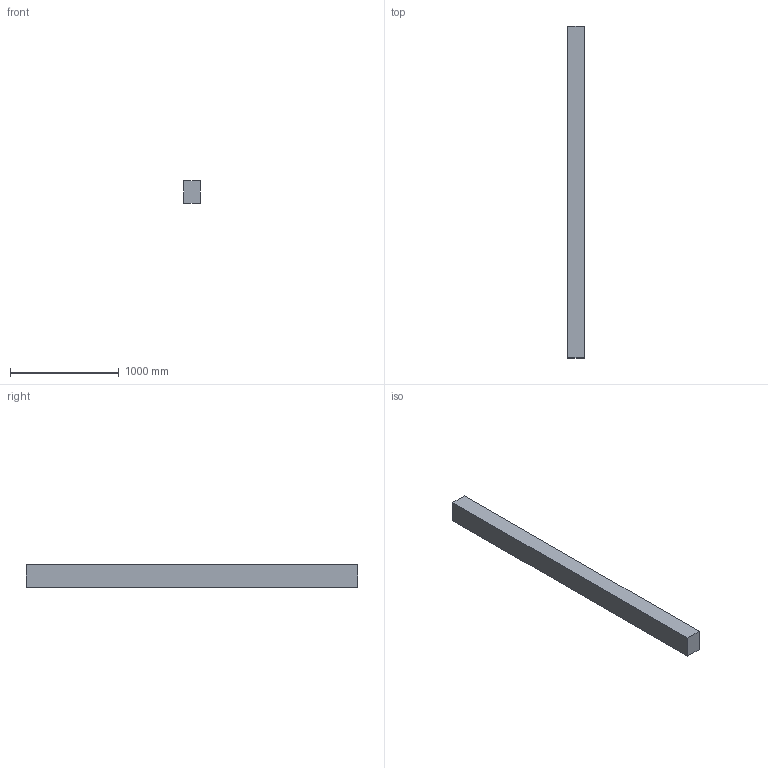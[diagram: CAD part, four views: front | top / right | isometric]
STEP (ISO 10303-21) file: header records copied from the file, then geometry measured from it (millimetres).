
FILE_DESCRIPTION(/* description */ (''),/* implementation_level */ '2;1');
FILE_NAME(/* name */ '6x8x120',/* time_stamp */ '2024-09-20T11:47:29-05:00',/* author */ (''),/* organization */ (''),/* preprocessor_version */ 'ST-DEVELOPER v19.2',/* originating_system */ 'Rhino 8.5',/* authorisation */ '');
FILE_SCHEMA (('CONFIG_CONTROL_DESIGN'));
Length unit declared in the file: inch
Products named in the file (1): Document
Bounding box: 152.4 x 3048 x 203.2 mm (x, y, z)
Volume: 94389488.6 mm3; surface area: 2229673 mm2
Topology: 1 solids, 1 shells, 6 faces, 12 edges, 8 vertices
Faces by surface type: plane 6
Entity records: 226 total; most frequent: CARTESIAN_POINT 40, ORIENTED_EDGE 24, EDGE_CURVE 12, B_SPLINE_CURVE_WITH_KNOTS 12, DIRECTION 10, VERTEX_POINT 8, AXIS2_PLACEMENT_3D 8, ORGANIZATION 7
